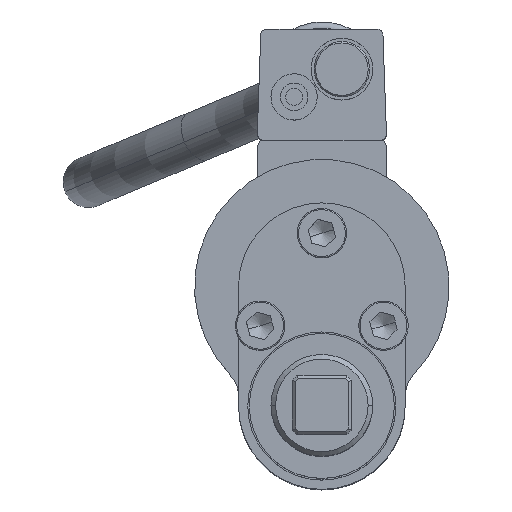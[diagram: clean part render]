
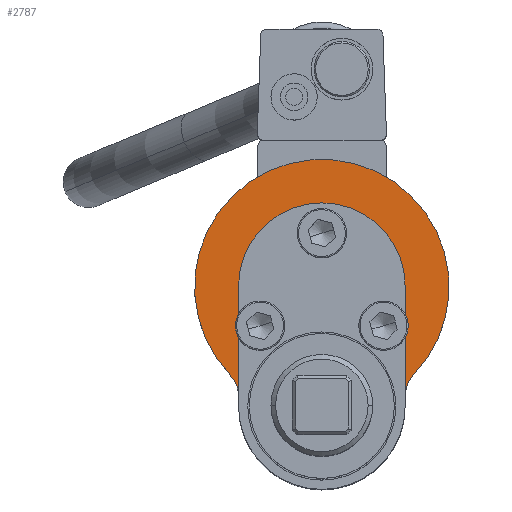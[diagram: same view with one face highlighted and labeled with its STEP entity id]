
A CAD part, top view. The second image highlights one B-rep face of the part: STEP entity #2787.
In plain terms, the highlighted planar face has unit normal (0, 0, 1).
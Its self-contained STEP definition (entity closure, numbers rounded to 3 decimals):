
#2626=AXIS2_PLACEMENT_3D('Circle Axis2P3D',#2624,#2625,$) ;
#2721=AXIS2_PLACEMENT_3D('Circle Axis2P3D',#2719,#2720,$) ;
#2745=AXIS2_PLACEMENT_3D('Circle Axis2P3D',#2743,#2744,$) ;
#2758=AXIS2_PLACEMENT_3D('Plane Axis2P3D',#2755,#2756,#2757) ;
#2769=AXIS2_PLACEMENT_3D('Circle Axis2P3D',#2767,#2768,$) ;
#2614=CARTESIAN_POINT('Vertex',(29.78,-28.543,385.6)) ;
#2621=CARTESIAN_POINT('Vertex',(-29.78,-28.543,385.6)) ;
#2624=CARTESIAN_POINT('Axis2P3D Location',(0.,0.,385.6)) ;
#2716=CARTESIAN_POINT('Vertex',(27.,-35.462,385.6)) ;
#2719=CARTESIAN_POINT('Axis2P3D Location',(37.,-35.462,385.6)) ;
#2740=CARTESIAN_POINT('Vertex',(-27.,-35.462,385.6)) ;
#2743=CARTESIAN_POINT('Axis2P3D Location',(-37.,-35.462,385.6)) ;
#2755=CARTESIAN_POINT('Axis2P3D Location',(0.,0.,385.6)) ;
#2760=CARTESIAN_POINT('Line Origine',(-27.,-17.731,385.6)) ;
#2764=CARTESIAN_POINT('Vertex',(-27.,0.,385.6)) ;
#2767=CARTESIAN_POINT('Axis2P3D Location',(0.,0.,385.6)) ;
#2771=CARTESIAN_POINT('Vertex',(27.,0.,385.6)) ;
#2774=CARTESIAN_POINT('Line Origine',(27.,-17.731,385.6)) ;
#2625=DIRECTION('Axis2P3D Direction',(0.,0.,1.)) ;
#2720=DIRECTION('Axis2P3D Direction',(0.,0.,1.)) ;
#2744=DIRECTION('Axis2P3D Direction',(0.,0.,1.)) ;
#2756=DIRECTION('Axis2P3D Direction',(0.,0.,1.)) ;
#2757=DIRECTION('Axis2P3D XDirection',(1.,0.,0.)) ;
#2761=DIRECTION('Vector Direction',(0.,-1.,0.)) ;
#2768=DIRECTION('Axis2P3D Direction',(0.,0.,1.)) ;
#2775=DIRECTION('Vector Direction',(0.,-1.,0.)) ;
#2762=VECTOR('Line Direction',#2761,1.) ;
#2776=VECTOR('Line Direction',#2775,1.) ;
#2780=ORIENTED_EDGE('',*,*,#2723,.T.) ;
#2781=ORIENTED_EDGE('',*,*,#2628,.T.) ;
#2782=ORIENTED_EDGE('',*,*,#2747,.T.) ;
#2783=ORIENTED_EDGE('',*,*,#2766,.F.) ;
#2784=ORIENTED_EDGE('',*,*,#2773,.F.) ;
#2785=ORIENTED_EDGE('',*,*,#2778,.F.) ;
#2787=ADVANCED_FACE('AO-325.1\\AO325.1\\Hauptk\X2\00F6\X0\rper',(#2786),#2759,.T.) ;
#2627=CIRCLE('generated circle',#2626,41.25) ;
#2722=CIRCLE('generated circle',#2721,10.) ;
#2746=CIRCLE('generated circle',#2745,10.) ;
#2770=CIRCLE('generated circle',#2769,27.) ;
#2628=EDGE_CURVE('',#2615,#2622,#2627,.T.) ;
#2723=EDGE_CURVE('',#2717,#2615,#2722,.F.) ;
#2747=EDGE_CURVE('',#2622,#2741,#2746,.F.) ;
#2766=EDGE_CURVE('',#2765,#2741,#2763,.T.) ;
#2773=EDGE_CURVE('',#2772,#2765,#2770,.T.) ;
#2778=EDGE_CURVE('',#2717,#2772,#2777,.F.) ;
#2779=EDGE_LOOP('',(#2780,#2781,#2782,#2783,#2784,#2785)) ;
#2786=FACE_OUTER_BOUND('',#2779,.T.) ;
#2763=LINE('Line',#2760,#2762) ;
#2777=LINE('Line',#2774,#2776) ;
#2759=PLANE('',#2758) ;
#2615=VERTEX_POINT('',#2614) ;
#2622=VERTEX_POINT('',#2621) ;
#2717=VERTEX_POINT('',#2716) ;
#2741=VERTEX_POINT('',#2740) ;
#2765=VERTEX_POINT('',#2764) ;
#2772=VERTEX_POINT('',#2771) ;
